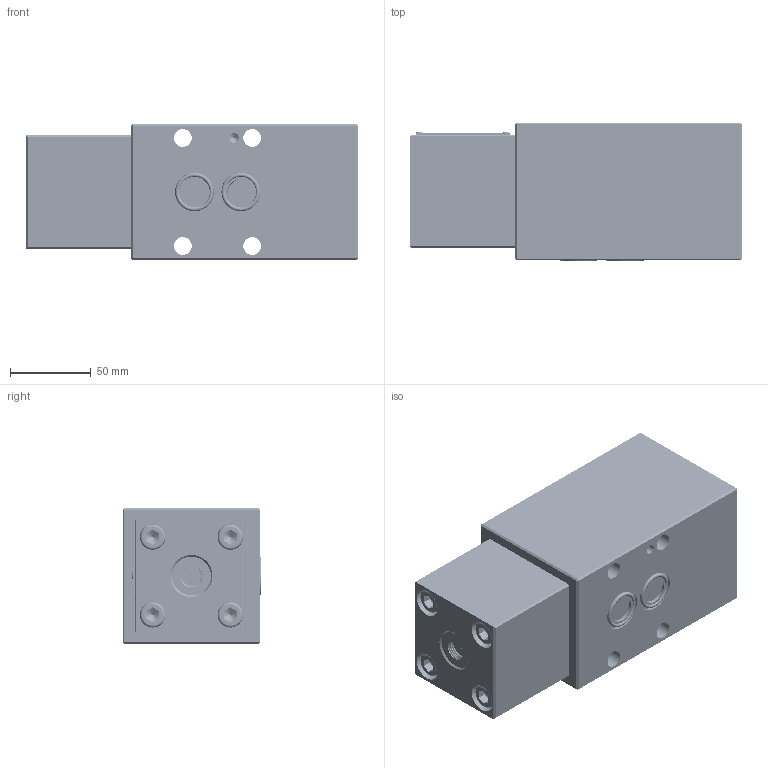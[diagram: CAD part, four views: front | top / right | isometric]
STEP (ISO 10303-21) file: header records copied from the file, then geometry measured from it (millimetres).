
FILE_DESCRIPTION(/* description */ (''),/* implementation_level */ '2;1');
FILE_NAME(/* name */ 'FD12(16)PA平衡阀.prt.stp',/* time_stamp */ '2022-03-30T20:02:03+08:00',/* author */ (''),/* organization */ (''),/* preprocessor_version */ 'ST-DEVELOPER v16.7',/* originating_system */ 'SIEMENS PLM Software NX 12.0',/* authorisation */ '');
FILE_SCHEMA (('AUTOMOTIVE_DESIGN { 1 0 10303 214 3 1 1 1 }'));
Products named in the file (1): FD12(16)PA平衡阀
Bounding box: 205 x 85.68 x 84 mm (x, y, z)
Volume: 476186 mm3; surface area: 209070.9 mm2
Topology: 51 solids, 54 shells, 1483 faces, 4052 edges, 2571 vertices
Faces by surface type: plane 743, cylinder 515, cone 133, bspline 45, torus 33, extrusion 13, sphere 1
Full cylindrical faces by diameter (mm): 0.123 x92, 0.3 x1, 1 x12, 1.8 x2, 1.9 x2, 2 x11, 2.5 x2, 3 x6, 3.2 x1, 3.5 x1, 5 x3, 6 x3, 6.5 x9, 7 x8, 8 x3, 8.5 x50, 9 x1, 10 x129, 11 x9, 11.8 x1, 12 x3, 12.4 x1, 12.5 x1, 13 x1, 15 x1, 15.73 x4, 16 x31, 18 x6, 19.7 x3, 20 x15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
Entity records: 98159 total; most frequent: CARTESIAN_POINT 68897, ORIENTED_EDGE 5398, DIRECTION 5321, EDGE_CURVE 2699, EDGE_LOOP 2063, VERTEX_POINT 1957, AXIS2_PLACEMENT_3D 1840, VECTOR 1641
